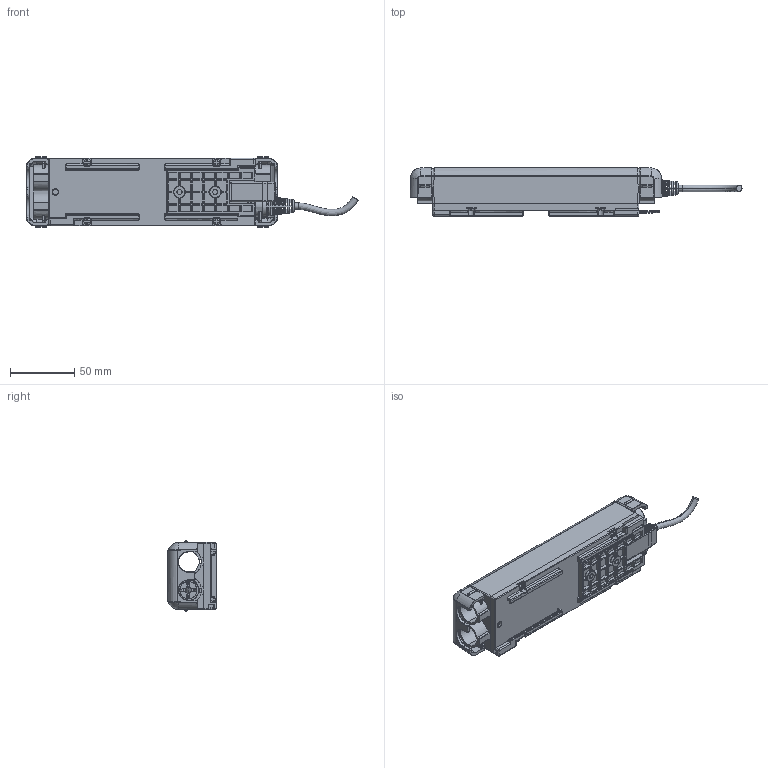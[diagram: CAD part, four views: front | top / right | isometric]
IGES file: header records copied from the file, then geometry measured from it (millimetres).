
Start section: SolidWorks IGES file using analytic representation for surfaces
Global section: file name: C:\Users\USER\Desktop\cm23-igs.IGS; native system: SolidWorks 2020; preprocessor: SolidWorks 2020; author: USER; date: 220118.084216; units: millimetre
Bounding box: 259.37 x 38.1 x 55.13 mm (x, y, z)
Surface area: 55915.6 mm2 (no closed solid volume)
Topology: 0 solids, 0 shells, 1529 faces, 13030 edges, 13020 vertices
Faces by surface type: bspline 901, revolution 628
